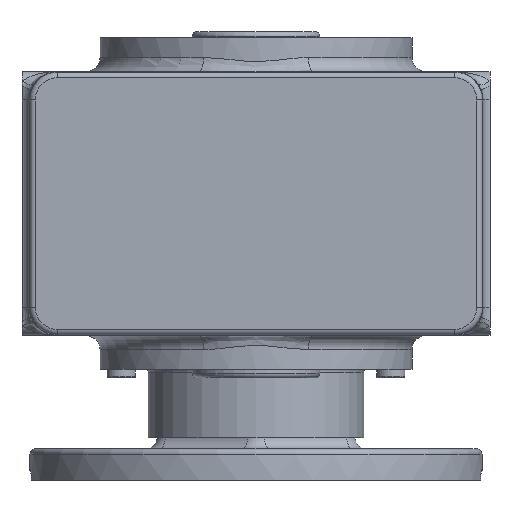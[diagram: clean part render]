
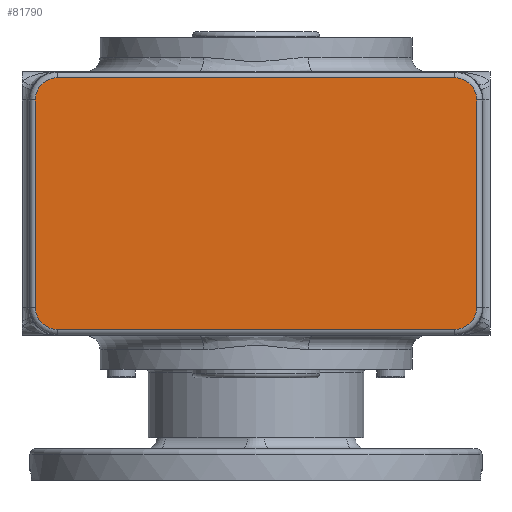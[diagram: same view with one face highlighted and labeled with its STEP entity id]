
A CAD part, front view. The second image highlights one B-rep face of the part: STEP entity #81790.
In plain terms, the highlighted planar face has unit normal (0, -1, 0).
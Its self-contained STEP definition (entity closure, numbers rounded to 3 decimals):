
#33483 = CARTESIAN_POINT ( 'NONE',  ( -77.86, -74.5, 10. ) ) ;
#33484 = LINE ( 'NONE', #33483, #33545 ) ;
#33485 = CARTESIAN_POINT ( 'NONE',  ( -77.86, -74.5, 83. ) ) ;
#33486 = DIRECTION ( 'NONE',  ( 0., 0., -1. ) ) ;
#33487 = DIRECTION ( 'NONE',  ( 0., -1., 0. ) ) ;
#33488 = CARTESIAN_POINT ( 'NONE',  ( -70., -74.5, 83. ) ) ;
#33489 = AXIS2_PLACEMENT_3D ( 'NONE', #33488, #33487, #33486 ) ;
#33490 = CIRCLE ( 'NONE', #33489, 7.86 ) ;
#33495 = CARTESIAN_POINT ( 'NONE',  ( -70., -74.5, 90.86 ) ) ;
#33496 = DIRECTION ( 'NONE',  ( -1., 0., 0. ) ) ;
#33497 = VECTOR ( 'NONE', #33496, 1000. ) ;
#33498 = CARTESIAN_POINT ( 'NONE',  ( -70., -74.5, 90.86 ) ) ;
#33499 = LINE ( 'NONE', #33498, #33497 ) ;
#33515 = CARTESIAN_POINT ( 'NONE',  ( 70., -74.5, 90.86 ) ) ;
#33516 = DIRECTION ( 'NONE',  ( 0., 0., -1. ) ) ;
#33517 = DIRECTION ( 'NONE',  ( 0., -1., 0. ) ) ;
#33518 = CARTESIAN_POINT ( 'NONE',  ( 70., -74.5, 83. ) ) ;
#33519 = AXIS2_PLACEMENT_3D ( 'NONE', #33518, #33517, #33516 ) ;
#33520 = CIRCLE ( 'NONE', #33519, 7.86 ) ;
#33521 = CARTESIAN_POINT ( 'NONE',  ( 77.86, -74.5, 83. ) ) ;
#33522 = CARTESIAN_POINT ( 'NONE',  ( 77.86, -74.5, 10. ) ) ;
#33523 = DIRECTION ( 'NONE',  ( 0., 0., 1. ) ) ;
#33524 = VECTOR ( 'NONE', #33523, 1000. ) ;
#33525 = CARTESIAN_POINT ( 'NONE',  ( 77.86, -74.5, 83. ) ) ;
#33526 = LINE ( 'NONE', #33525, #33524 ) ;
#33527 = DIRECTION ( 'NONE',  ( 0., 0., -1. ) ) ;
#33528 = DIRECTION ( 'NONE',  ( 0., -1., 0. ) ) ;
#33529 = CARTESIAN_POINT ( 'NONE',  ( 70., -74.5, 10. ) ) ;
#33530 = AXIS2_PLACEMENT_3D ( 'NONE', #33529, #33528, #33527 ) ;
#33531 = PLANE ( 'NONE',  #33530 ) ;
#33532 = FACE_OUTER_BOUND ( 'NONE', #81793, .T. ) ;
#33533 = DIRECTION ( 'NONE',  ( 1., 0., 0. ) ) ;
#33534 = VECTOR ( 'NONE', #33533, 1000. ) ;
#33535 = CARTESIAN_POINT ( 'NONE',  ( 70., -74.5, 2.14 ) ) ;
#33536 = LINE ( 'NONE', #33535, #33534 ) ;
#33537 = CARTESIAN_POINT ( 'NONE',  ( -70., -74.5, 2.14 ) ) ;
#33538 = DIRECTION ( 'NONE',  ( 0., 0., -1. ) ) ;
#33539 = DIRECTION ( 'NONE',  ( 0., -1., 0. ) ) ;
#33540 = CARTESIAN_POINT ( 'NONE',  ( -70., -74.5, 10. ) ) ;
#33541 = AXIS2_PLACEMENT_3D ( 'NONE', #33540, #33539, #33538 ) ;
#33542 = CIRCLE ( 'NONE', #33541, 7.86 ) ;
#33543 = CARTESIAN_POINT ( 'NONE',  ( -77.86, -74.5, 10. ) ) ;
#33544 = DIRECTION ( 'NONE',  ( 0., 0., -1. ) ) ;
#33545 = VECTOR ( 'NONE', #33544, 1000. ) ;
#33581 = DIRECTION ( 'NONE',  ( 0., 0., -1. ) ) ;
#33582 = DIRECTION ( 'NONE',  ( 0., -1., 0. ) ) ;
#33583 = CARTESIAN_POINT ( 'NONE',  ( 70., -74.5, 10. ) ) ;
#33584 = AXIS2_PLACEMENT_3D ( 'NONE', #33583, #33582, #33581 ) ;
#33585 = CIRCLE ( 'NONE', #33584, 7.86 ) ;
#33587 = CARTESIAN_POINT ( 'NONE',  ( 70., -74.5, 2.14 ) ) ;
#81750 = ORIENTED_EDGE ( 'NONE', *, *, #81752, .T. ) ;
#81752 = EDGE_CURVE ( 'NONE', #81807, #81754, #33499, .T. ) ;
#81754 = VERTEX_POINT ( 'NONE', #33495 ) ;
#81757 = ORIENTED_EDGE ( 'NONE', *, *, #81758, .T. ) ;
#81758 = EDGE_CURVE ( 'NONE', #81754, #81760, #33490, .T. ) ;
#81760 = VERTEX_POINT ( 'NONE', #33485 ) ;
#81762 = ORIENTED_EDGE ( 'NONE', *, *, #81764, .T. ) ;
#81764 = EDGE_CURVE ( 'NONE', #81760, #81766, #33484, .T. ) ;
#81766 = VERTEX_POINT ( 'NONE', #33543 ) ;
#81768 = ORIENTED_EDGE ( 'NONE', *, *, #81770, .T. ) ;
#81770 = EDGE_CURVE ( 'NONE', #81766, #81772, #33542, .T. ) ;
#81772 = VERTEX_POINT ( 'NONE', #33537 ) ;
#81774 = ORIENTED_EDGE ( 'NONE', *, *, #81776, .T. ) ;
#81776 = EDGE_CURVE ( 'NONE', #81772, #81894, #33536, .T. ) ;
#81790 = ADVANCED_FACE ( 'NONE', ( #33532 ), #33531, .T. ) ;
#81793 = EDGE_LOOP ( 'NONE', ( #81795, #81803, #81750, #81757, #81762, #81768, #81774, #81896 ) ) ;
#81795 = ORIENTED_EDGE ( 'NONE', *, *, #81797, .T. ) ;
#81797 = EDGE_CURVE ( 'NONE', #81799, #81801, #33526, .T. ) ;
#81799 = VERTEX_POINT ( 'NONE', #33522 ) ;
#81801 = VERTEX_POINT ( 'NONE', #33521 ) ;
#81803 = ORIENTED_EDGE ( 'NONE', *, *, #81805, .T. ) ;
#81805 = EDGE_CURVE ( 'NONE', #81801, #81807, #33520, .T. ) ;
#81807 = VERTEX_POINT ( 'NONE', #33515 ) ;
#81894 = VERTEX_POINT ( 'NONE', #33587 ) ;
#81896 = ORIENTED_EDGE ( 'NONE', *, *, #81898, .T. ) ;
#81898 = EDGE_CURVE ( 'NONE', #81894, #81799, #33585, .T. ) ;
